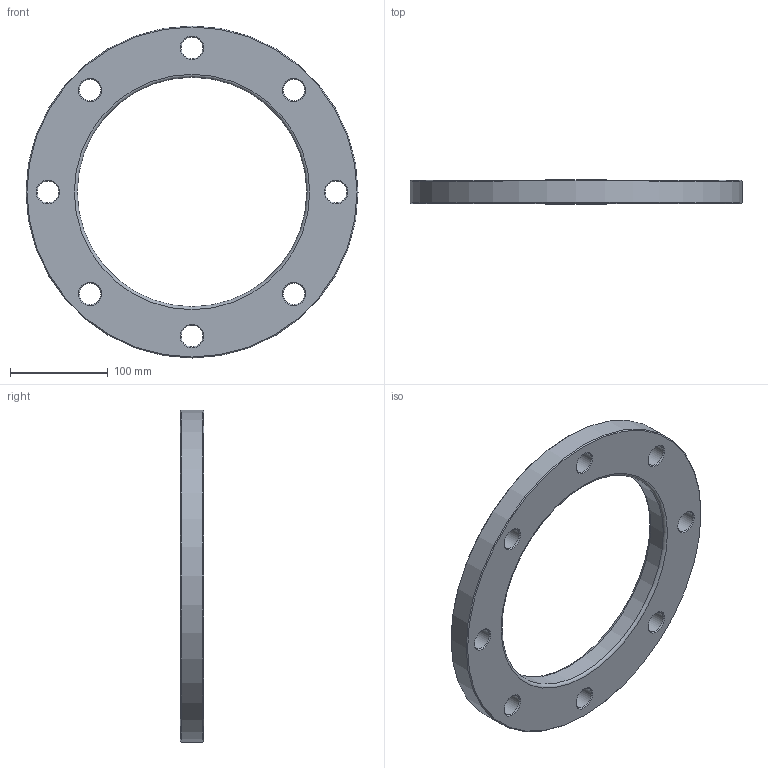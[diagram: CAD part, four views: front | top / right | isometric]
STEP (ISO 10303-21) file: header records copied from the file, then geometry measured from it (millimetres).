
FILE_DESCRIPTION(/* description */ ('Unknown'),/* implementation_level */ '2;1');
FILE_NAME(/* name */ 'FR200B',/* time_stamp */ '2022-07-06T09:59:09+02:00',/* author */ ('Unknown'),/* organization */ ('Unknown'),/* preprocessor_version */ 'ST-DEVELOPER v18.102',/* originating_system */ 'Solid Edge',/* authorisation */ 'Unknown');
FILE_SCHEMA (('AUTOMOTIVE_DESIGN {1 0 10303 214 3 1 1}'));
Length unit declared in the file: millimetre
Products named in the file (1): FR200B
Bounding box: 340 x 24 x 340 mm (x, y, z)
Volume: 1060552.6 mm3; surface area: 141604.6 mm2
Topology: 1 solids, 1 shells, 32 faces, 94 edges, 64 vertices
Faces by surface type: cone 18, cylinder 10, plane 2, torus 2
Full cylindrical faces by diameter (mm): 22 x8, 235 x1, 340 x1
Entity records: 790 total; most frequent: DIRECTION 146, CARTESIAN_POINT 113, ORIENTED_EDGE 80, EDGE_LOOP 80, FACE_BOUND 80, AXIS2_PLACEMENT_3D 73, EDGE_CURVE 40, VERTEX_POINT 40
